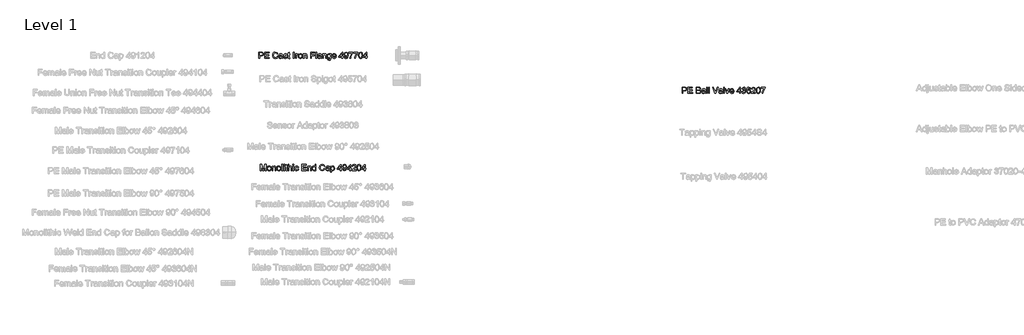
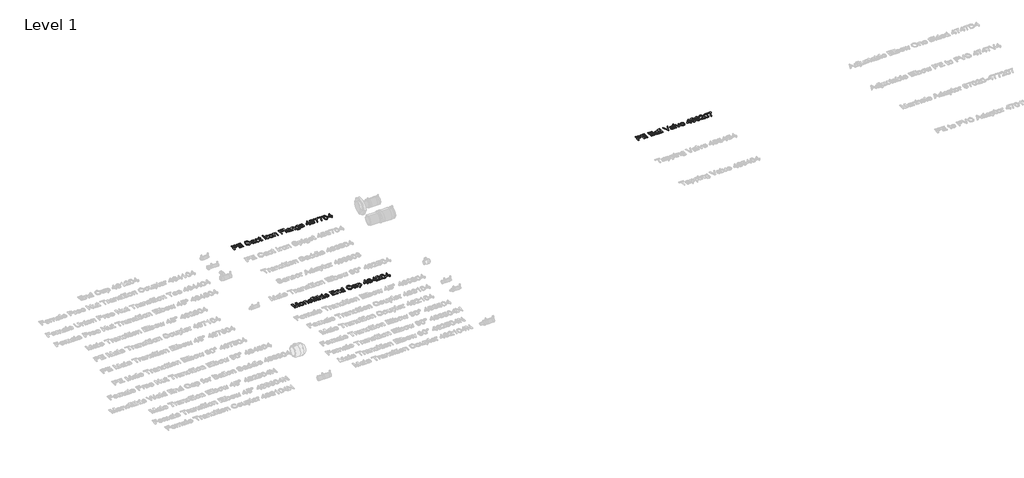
# One storey, part 36 of 41: 3 proxies.
"""IFC4 building model written with IfcOpenShell, lengths in millimetres."""

import ifcopenshell
import ifcopenshell.guid

model = None  # the IFC model being written
_history = None  # IfcOwnerHistory: only IFC2X3 demands one
_inside = {}  # id of a spatial element -> (the spatial element, [elements in it])
_under = {}  # id of a project, library or spatial element -> (it, [spatial elements below it])
_declared = {}  # id of a project -> (the project, [libraries it declares])
_typed = {}  # id of a type object -> (the type object, [elements of that type])
_made_of = {}  # id of a material, layer set ... -> (it, [elements and type objects made of it])


def new_model(schema):
    """Start an empty IFC model of exactly this schema.

    Asked for "IFC4X3", IfcOpenShell would pick the latest addendum, in which some entities
    have other attributes; the version numbers below select the first issue.
    IFC2X3 requires an IfcOwnerHistory on every rooted entity: one is made here for all.
    """
    global model, _history
    if schema == "IFC4X3":
        model = ifcopenshell.file(schema_version=(4, 3, 0, 0))
    else:
        model = ifcopenshell.file(schema=schema)
    _inside.clear()
    _under.clear()
    _declared.clear()
    _typed.clear()
    _made_of.clear()
    _history = None
    if model.schema == "IFC2X3":
        org = make("IfcOrganization", Name="unknown")
        user = make(
            "IfcPersonAndOrganization",
            ThePerson=make("IfcPerson", FamilyName="unknown"),
            TheOrganization=org,
        )
        app = make(
            "IfcApplication",
            ApplicationDeveloper=org,
            Version="unknown",
            ApplicationFullName="unknown",
            ApplicationIdentifier="unknown",
        )
        _history = make(
            "IfcOwnerHistory",
            OwningUser=user,
            OwningApplication=app,
            ChangeAction="ADDED",
            CreationDate=0,
        )
    return model


def make(cls, **values):
    """One entity of the class cls with the attributes given. An attribute that is None is left unset."""
    return model.create_entity(
        cls, **{name: value for name, value in values.items() if value is not None}
    )


def rooted(cls, **values):
    """An entity with a GlobalId (a new one), such as an element, a storey or a relation."""
    return make(cls, GlobalId=ifcopenshell.guid.new(), OwnerHistory=_history, **values)


def si_unit(unit_type, name, prefix=None):
    """IfcSIUnit, for example si_unit("LENGTHUNIT", "METRE", prefix="MILLI")."""
    return make("IfcSIUnit", UnitType=unit_type, Prefix=prefix, Name=name)


def assignment(units):
    """IfcUnitAssignment: the units of a project."""
    return None if units is None else make("IfcUnitAssignment", Units=units)


def point(xyz):
    """IfcCartesianPoint."""
    return None if xyz is None else make("IfcCartesianPoint", Coordinates=xyz)


def direction(xyz):
    """IfcDirection."""
    return None if xyz is None else make("IfcDirection", DirectionRatios=xyz)


def frame(location, z_axis=None, x_axis=None):
    """IfcAxis2Placement3D, a coordinate frame: its origin and axes. An axis left out is left unset."""
    return make(
        "IfcAxis2Placement3D",
        Location=point(location),
        Axis=direction(z_axis),
        RefDirection=direction(x_axis),
    )


def origin():
    """The frame at (0, 0, 0) with its axes left unset."""
    return frame((0.0, 0.0, 0.0))


def origin_with_axes():
    """The frame at (0, 0, 0) with the z axis (0, 0, 1) and the x axis (1, 0, 0) written out."""
    return frame((0.0, 0.0, 0.0), z_axis=(0.0, 0.0, 1.0), x_axis=(1.0, 0.0, 0.0))


def place(relative_to, where):
    """IfcLocalPlacement: puts the frame where relative to a parent placement (None: the world)."""
    return make(
        "IfcLocalPlacement", PlacementRelTo=relative_to, RelativePlacement=where
    )


def context(
    kind, dimensions, precision=None, world=None, true_north=None, identifier=None
):
    """IfcGeometricRepresentationContext, for example the 3D "Model" context."""
    return make(
        "IfcGeometricRepresentationContext",
        ContextIdentifier=identifier,
        ContextType=kind,
        CoordinateSpaceDimension=dimensions,
        Precision=precision,
        WorldCoordinateSystem=world,
        TrueNorth=true_north,
    )


def project(units=None, contexts=None):
    """IfcProject with its units and contexts."""
    return rooted(
        "IfcProject",
        Name="project",
        RepresentationContexts=contexts,
        UnitsInContext=assignment(units),
    )


def spatial(cls, under=None, at=None, **own):
    """A site, building, storey or space (cls), placed at a placement, below another one or the project."""
    s = rooted(cls, ObjectPlacement=at, **own)
    if under is not None:
        _under.setdefault(under.id(), (under, []))[1].append(s)
    return s


def polyline(points):
    """IfcPolyline through the points."""
    return make("IfcPolyline", Points=[point(p) for p in points])


def outline(outer, holes=None, kind="AREA"):
    """IfcArbitraryClosedProfileDef: a profile drawn as a closed curve; with holes, ...WithVoids."""
    if holes is None:
        return make("IfcArbitraryClosedProfileDef", ProfileType=kind, OuterCurve=outer)
    return make(
        "IfcArbitraryProfileDefWithVoids",
        ProfileType=kind,
        OuterCurve=outer,
        InnerCurves=holes,
    )


def extrude(swept, where, along, depth):
    """IfcExtrudedAreaSolid: the profile swept, set in the frame where, extruded along a direction by depth."""
    return make(
        "IfcExtrudedAreaSolid",
        SweptArea=swept,
        Position=where,
        ExtrudedDirection=direction(along),
        Depth=depth,
    )


def shape(context_of_items, identifier, shape_type, items):
    """IfcShapeRepresentation: the items that make up one representation, for example the "Body"."""
    return make(
        "IfcShapeRepresentation",
        ContextOfItems=context_of_items,
        RepresentationIdentifier=identifier,
        RepresentationType=shape_type,
        Items=items,
    )


def made_of(thing, what):
    """Note that an element or type object is made of a material, layer set ...; save() writes the relation."""
    if what is not None:
        _made_of.setdefault(what.id(), (what, []))[1].append(thing)
    return thing


def element(
    cls,
    number,
    at=None,
    inside=None,
    cuts=None,
    type_object=None,
    material=None,
    context=None,
    identifier="Body",
    shape_type=None,
    held_by="IfcProductDefinitionShape",
    body=None,
    shapes=None,
    **own,
):
    """One element of the class cls, such as IfcWall. Its Tag is "e" and its number.

    at: its placement. inside: the storey or other place that contains it. cuts: it is an
    opening in that element (IfcRelVoidsElement). A single representation is given by context,
    identifier, shape_type and body (its items); several are given by shapes. held_by: the class
    of the entity that holds the representations. save() writes the other relations.
    """
    e = rooted(cls, Tag="e%d" % number, ObjectPlacement=at, **own)
    if body is not None:
        shapes = [shape(context, identifier, shape_type, body)]
    if shapes is not None:
        e.Representation = make(held_by, Representations=shapes)
    if inside is not None:
        _inside.setdefault(inside.id(), (inside, []))[1].append(e)
    if cuts is not None:
        rooted(
            "IfcRelVoidsElement", RelatingBuildingElement=cuts, RelatedOpeningElement=e
        )
    if type_object is not None:
        _typed.setdefault(type_object.id(), (type_object, []))[1].append(e)
    return made_of(e, material)


def aggregate(whole, parts):
    """IfcRelAggregates: a whole, such as a stair, and the parts it consists of."""
    return rooted("IfcRelAggregates", RelatingObject=whole, RelatedObjects=parts)


def save(model, path):
    """Write the relations noted so far, then the file.

    IfcRelAggregates (storeys below a building ...), IfcRelContainedInSpatialStructure (elements
    in a storey), IfcRelDefinesByType, IfcRelAssociatesMaterial and IfcRelDeclares: one each for
    every whole, place, type object, material and project.
    """
    for whole, parts in _under.values():
        aggregate(whole, parts)
    for where, things in _inside.values():
        rooted(
            "IfcRelContainedInSpatialStructure",
            RelatedElements=things,
            RelatingStructure=where,
        )
    for kind, things in _typed.values():
        rooted("IfcRelDefinesByType", RelatedObjects=things, RelatingType=kind)
    for what, things in _made_of.values():
        rooted("IfcRelAssociatesMaterial", RelatedObjects=things, RelatingMaterial=what)
    for by, libraries in _declared.values():
        rooted("IfcRelDeclares", RelatingContext=by, RelatedDefinitions=libraries)
    model.write(path)


model = new_model("IFC4")

# Units and contexts
model_context = context("Model", 3, world=origin())
ifc_project = project(units=[si_unit("LENGTHUNIT", "METRE", prefix="MILLI")], contexts=[model_context])

# Site, building, storey
site = spatial("IfcSite", under=ifc_project)
building = spatial("IfcBuilding", under=site)
storey = spatial("IfcBuildingStorey", under=building, Name="Level 1", Elevation=0.0)

# Proxies
placement = place(None, origin())
element("IfcBuildingElementProxy", 1, Name="100 mm Arial", ObjectType="100 mm Arial", at=placement, inside=storey, context=model_context, shape_type="SweptSolid", body=[
    extrude(outline(polyline([(17613.6059122, 5081.8693943), (17613.6059122, 5140.9463174), (17635.500143, 5140.9463174), (17644.3270661, 5140.3838174), (17651.5025468, 5137.6217982), (17656.1539891, 5131.9102597), (17657.9136045, 5123.8549713), (17653.1612007, 5111.0905482), (17646.4959362, 5107.1746828), (17636.0049507, 5105.8693943), (17620.9905276, 5105.8693943), (17620.9905276, 5081.8693943), (17613.6059122, 5081.8693943)]), holes=[polyline([(17620.9905276, 5113.2540097), (17636.437643, 5113.2540097), (17647.312643, 5115.9655482), (17650.5289891, 5123.5953559), (17648.6323545, 5129.7107405), (17643.6491814, 5133.0568943), (17636.2645661, 5133.561702), (17620.9905276, 5133.561702), (17620.9905276, 5113.2540097)])]), origin_with_axes(), (0.0, 0.0, 1.0), 5.0),
    extrude(outline(polyline([(17668.0674507, 5081.8693943), (17668.0674507, 5140.9463174), (17710.5289891, 5140.9463174), (17710.5289891, 5133.561702), (17675.4520661, 5133.561702), (17675.4520661, 5116.0232405), (17708.6828353, 5116.0232405), (17708.6828353, 5108.6386251), (17675.4520661, 5108.6386251), (17675.4520661, 5089.2540097), (17711.4520661, 5089.2540097), (17711.4520661, 5081.8693943), (17668.0674507, 5081.8693943)])), origin_with_axes(), (0.0, 0.0, 1.0), 5.0),
    extrude(outline(polyline([(17787.1443737, 5102.8693943), (17794.5289891, 5100.9655482), (17785.7741814, 5086.0737213), (17770.312643, 5080.9463174), (17754.9448545, 5084.8261251), (17745.9304314, 5096.061702), (17742.8366814, 5111.8549713), (17746.3342776, 5127.9078559), (17756.2789891, 5138.3141059), (17770.4712968, 5141.8693943), (17785.2621622, 5137.2684328), (17793.6059122, 5124.3165097), (17786.2212968, 5122.5568943), (17780.1636045, 5131.6362213), (17770.1828353, 5134.484779), (17758.6299507, 5131.3261251), (17752.1035084, 5122.8453559), (17750.2212968, 5111.8693943), (17752.4496622, 5099.1482405), (17759.3871622, 5091.0208366), (17769.5770661, 5088.3309328), (17780.8775468, 5091.9943943), (17787.1443737, 5102.8693943)])), origin_with_axes(), (0.0, 0.0, 1.0), 5.0),
    extrude(outline(polyline([(17831.4520661, 5087.4078559), (17824.2910084, 5082.4030482), (17816.3799507, 5080.9463174), (17805.656393, 5084.4511251), (17801.9136045, 5093.4078559), (17803.3270661, 5099.249202), (17807.0410084, 5103.4895866), (17812.2116814, 5105.9126636), (17818.6011045, 5107.0232405), (17831.4087968, 5109.561702), (17831.4520661, 5111.2059328), (17829.4184122, 5116.6578559), (17821.2549507, 5118.7924713), (17813.7837968, 5117.3717982), (17810.2212968, 5112.3309328), (17802.8366814, 5113.2540097), (17806.031393, 5120.4655482), (17812.4640853, 5124.6915097), (17822.2068737, 5126.1770866), (17831.156393, 5124.8645866), (17836.2116814, 5121.5689136), (17838.4761045, 5116.5568943), (17838.8366814, 5110.0953559), (17838.8366814, 5100.9078559), (17839.2116814, 5088.078529), (17840.6828353, 5081.8693943), (17833.2982199, 5081.8693943), (17831.4520661, 5087.4078559)]), holes=[polyline([(17831.4520661, 5102.1770866), (17819.5386045, 5099.9126636), (17813.1852391, 5098.7155482), (17810.3078353, 5096.7684328), (17809.2982199, 5093.9270866), (17811.4977391, 5089.9318943), (17817.9520661, 5088.3309328), (17825.4232199, 5090.0977597), (17830.2405276, 5094.374202), (17831.4087968, 5100.0857405), (17831.4520661, 5102.1770866)])]), origin_with_axes(), (0.0, 0.0, 1.0), 5.0),
    extrude(outline(polyline([(17846.2212968, 5094.7924713), (17853.6059122, 5095.7155482), (17857.0241814, 5090.234779), (17864.8559122, 5088.3309328), (17872.3847584, 5090.0761251), (17874.8366814, 5094.172279), (17872.3703353, 5097.4895866), (17864.7693737, 5099.5953559), (17853.6491814, 5103.2083366), (17848.7958161, 5107.4270866), (17847.1443737, 5113.3838174), (17848.4712968, 5118.8862213), (17852.0914891, 5123.0905482), (17856.7862007, 5125.2756443), (17863.1395661, 5126.1770866), (17872.125143, 5124.7275674), (17877.8366814, 5120.8044905), (17880.375143, 5114.1770866), (17872.9905276, 5113.2540097), (17870.2140853, 5117.328529), (17863.7164891, 5118.7924713), (17856.6491814, 5117.3934328), (17854.5289891, 5114.1338174), (17855.4087968, 5111.984779), (17858.1636045, 5110.3549713), (17864.5241814, 5108.7828559), (17875.3631237, 5105.3068943), (17880.3967776, 5101.3693943), (17882.2212968, 5094.9511251), (17880.0794699, 5087.8838174), (17873.8991814, 5082.7564136), (17864.7549507, 5080.9463174), (17851.875143, 5084.436702), (17846.2212968, 5094.7924713)])), origin_with_axes(), (0.0, 0.0, 1.0), 5.0),
    extrude(outline(polyline([(17906.2212968, 5088.0280482), (17907.1443737, 5081.6530482), (17901.6203353, 5080.9463174), (17895.4328353, 5082.172279), (17892.3462968, 5085.3886251), (17891.4520661, 5093.7684328), (17891.4520661, 5117.8693943), (17885.9136045, 5117.8693943), (17885.9136045, 5125.2540097), (17891.4520661, 5125.2540097), (17891.4520661, 5135.797279), (17898.8366814, 5140.1386251), (17898.8366814, 5125.2540097), (17906.2212968, 5125.2540097), (17906.2212968, 5117.8693943), (17898.8366814, 5117.8693943), (17898.8366814, 5093.984779), (17899.2261045, 5090.1770866), (17900.4881237, 5088.828529), (17903.0049507, 5088.3309328), (17906.2212968, 5088.0280482)])), origin_with_axes(), (0.0, 0.0, 1.0), 5.0),
    extrude(outline(polyline([(17938.5289891, 5081.8693943), (17938.5289891, 5140.9463174), (17945.9136045, 5140.9463174), (17945.9136045, 5081.8693943), (17938.5289891, 5081.8693943)])), origin_with_axes(), (0.0, 0.0, 1.0), 5.0),
    extrude(outline(polyline([(17959.7597584, 5081.8693943), (17959.7597584, 5125.2540097), (17966.2212968, 5125.2540097), (17966.2212968, 5118.8357405), (17970.8078353, 5124.749202), (17975.4232199, 5126.1770866), (17982.8366814, 5123.8982405), (17980.3703353, 5117.2780482), (17975.1780276, 5118.7924713), (17971.0025468, 5117.3357405), (17968.3414891, 5113.297279), (17967.1443737, 5104.672279), (17967.1443737, 5081.8693943), (17959.7597584, 5081.8693943)])), origin_with_axes(), (0.0, 0.0, 1.0), 5.0),
    extrude(outline(polyline([(17985.6059122, 5103.561702), (17987.203268, 5114.0220386), (17991.9953353, 5121.374202), (18005.0049507, 5126.1770866), (18012.7627632, 5124.7149472), (18018.9592776, 5120.328529), (18023.0211766, 5113.3639857), (18024.375143, 5104.1674713), (18021.9809122, 5091.0280482), (18015.0073545, 5083.592952), (18005.0049507, 5080.9463174), (17997.1533882, 5082.4030482), (17990.9640853, 5086.7732405), (17986.9454555, 5093.8838174), (17985.6059122, 5103.561702)]), holes=[polyline([(17992.9905276, 5103.5761251), (17996.4087968, 5092.1314136), (18005.0049507, 5088.3309328), (18013.5722584, 5092.1530482), (18016.9905276, 5103.8068943), (18013.5506237, 5114.9919905), (18005.0049507, 5118.7924713), (17996.4087968, 5115.0064136), (17992.9905276, 5103.5761251)])]), origin_with_axes(), (0.0, 0.0, 1.0), 5.0),
    extrude(outline(polyline([(18032.6828353, 5081.8693943), (18032.6828353, 5125.2540097), (18040.0674507, 5125.2540097), (18040.0674507, 5119.1963174), (18045.7140853, 5124.4318943), (18053.4232199, 5126.1770866), (18060.3967776, 5124.7708366), (18065.156393, 5121.078529), (18067.3703353, 5115.6482405), (18067.7597584, 5108.5088174), (18067.7597584, 5081.8693943), (18060.375143, 5081.8693943), (18060.375143, 5107.5136251), (18059.5241814, 5114.047279), (18056.5169699, 5117.5016059), (18051.4472584, 5118.7924713), (18043.4352391, 5115.8934328), (18040.0674507, 5104.8886251), (18040.0674507, 5081.8693943), (18032.6828353, 5081.8693943)])), origin_with_axes(), (0.0, 0.0, 1.0), 5.0),
    extrude(outline(polyline([(18101.9136045, 5081.8693943), (18101.9136045, 5140.9463174), (18141.6059122, 5140.9463174), (18141.6059122, 5133.561702), (18109.2982199, 5133.561702), (18109.2982199, 5116.0232405), (18136.9905276, 5116.0232405), (18136.9905276, 5108.6386251), (18109.2982199, 5108.6386251), (18109.2982199, 5081.8693943), (18101.9136045, 5081.8693943)])), origin_with_axes(), (0.0, 0.0, 1.0), 5.0),
    extrude(outline(polyline([(18150.8366814, 5081.8693943), (18150.8366814, 5140.9463174), (18158.2212968, 5140.9463174), (18158.2212968, 5081.8693943), (18150.8366814, 5081.8693943)])), origin_with_axes(), (0.0, 0.0, 1.0), 5.0),
    extrude(outline(polyline([(18196.9905276, 5087.4078559), (18189.8294699, 5082.4030482), (18181.9184122, 5080.9463174), (18171.1948545, 5084.4511251), (18167.4520661, 5093.4078559), (18168.8655276, 5099.249202), (18172.5794699, 5103.4895866), (18177.750143, 5105.9126636), (18184.1395661, 5107.0232405), (18196.9472584, 5109.561702), (18196.9905276, 5111.2059328), (18194.9568737, 5116.6578559), (18186.7934122, 5118.7924713), (18179.3222584, 5117.3717982), (18175.7597584, 5112.3309328), (18168.375143, 5113.2540097), (18171.5698545, 5120.4655482), (18178.0025468, 5124.6915097), (18187.7453353, 5126.1770866), (18196.6948545, 5124.8645866), (18201.750143, 5121.5689136), (18204.0145661, 5116.5568943), (18204.375143, 5110.0953559), (18204.375143, 5100.9078559), (18204.750143, 5088.078529), (18206.2212968, 5081.8693943), (18198.8366814, 5081.8693943), (18196.9905276, 5087.4078559)]), holes=[polyline([(18196.9905276, 5102.1770866), (18185.0770661, 5099.9126636), (18178.7237007, 5098.7155482), (18175.8462968, 5096.7684328), (18174.8366814, 5093.9270866), (18177.0362007, 5089.9318943), (18183.4905276, 5088.3309328), (18190.9616814, 5090.0977597), (18195.7789891, 5094.374202), (18196.9472584, 5100.0857405), (18196.9905276, 5102.1770866)])]), origin_with_axes(), (0.0, 0.0, 1.0), 5.0),
    extrude(outline(polyline([(18214.5289891, 5081.8693943), (18214.5289891, 5125.2540097), (18221.9136045, 5125.2540097), (18221.9136045, 5119.1963174), (18227.5602391, 5124.4318943), (18235.2693737, 5126.1770866), (18242.2429314, 5124.7708366), (18247.0025468, 5121.078529), (18249.2164891, 5115.6482405), (18249.6059122, 5108.5088174), (18249.6059122, 5081.8693943), (18242.2212968, 5081.8693943), (18242.2212968, 5107.5136251), (18241.3703353, 5114.047279), (18238.3631237, 5117.5016059), (18233.2934122, 5118.7924713), (18225.281393, 5115.8934328), (18221.9136045, 5104.8886251), (18221.9136045, 5081.8693943), (18214.5289891, 5081.8693943)])), origin_with_axes(), (0.0, 0.0, 1.0), 5.0),
    extrude(outline(polyline([(18257.9136045, 5078.1770866), (18265.2982199, 5077.2540097), (18267.6924507, 5073.359779), (18274.8607199, 5071.7155482), (18282.4184122, 5073.5761251), (18286.0241814, 5078.797279), (18286.5289891, 5087.4078559), (18274.9905276, 5081.8693943), (18267.3769459, 5083.4811732), (18261.6996622, 5088.3165097), (18256.9905276, 5103.7780482), (18259.1035084, 5115.2227597), (18265.218893, 5123.3213174), (18274.6299507, 5126.1770866), (18281.2176911, 5124.561702), (18286.5289891, 5119.7155482), (18286.5289891, 5125.2540097), (18293.9136045, 5125.2540097), (18293.9136045, 5087.797279), (18291.8943737, 5073.453529), (18285.4977391, 5066.7828559), (18274.7164891, 5064.3309328), (18262.4352391, 5067.7852597), (18257.9136045, 5078.1770866)]), holes=[polyline([(18264.375143, 5104.2828559), (18267.5265853, 5092.8525674), (18275.437643, 5089.2540097), (18283.3342776, 5092.8309328), (18286.5289891, 5104.0665097), (18283.2405276, 5115.078529), (18275.3222584, 5118.7924713), (18267.5698545, 5115.1362213), (18264.375143, 5104.2828559)])]), origin_with_axes(), (0.0, 0.0, 1.0), 5.0),
    extrude(outline(polyline([(18335.3655276, 5094.7924713), (18342.6059122, 5093.8693943), (18335.8342776, 5084.3357405), (18323.2212968, 5080.9463174), (18314.5566334, 5082.4084568), (18307.8895661, 5086.7948751), (18303.6383641, 5093.8207165), (18302.2212968, 5103.2011251), (18303.6527872, 5112.8970386), (18307.9472584, 5120.1482405), (18314.5241814, 5124.6698751), (18322.8030276, 5126.1770866), (18330.8240612, 5124.6734809), (18337.2333161, 5120.1626636), (18341.4358401, 5112.9258847), (18342.8366814, 5103.2443943), (18342.7934122, 5101.2540097), (18309.6059122, 5101.2540097), (18313.8535084, 5091.6626636), (18323.3655276, 5088.3309328), (18330.6059122, 5089.874202), (18335.3655276, 5094.7924713)]), holes=[polyline([(18309.6059122, 5108.6386251), (18335.4520661, 5108.6386251), (18332.4953353, 5115.3309328), (18322.7741814, 5118.7924713), (18313.6804314, 5116.030452), (18309.6059122, 5108.6386251)])]), origin_with_axes(), (0.0, 0.0, 1.0), 5.0),
    extrude(outline(polyline([(18395.4520661, 5081.8693943), (18395.4520661, 5095.7155482), (18368.6828353, 5095.7155482), (18368.6828353, 5103.1001636), (18397.2982199, 5140.0232405), (18402.8366814, 5140.0232405), (18402.8366814, 5103.1001636), (18410.2212968, 5103.1001636), (18410.2212968, 5095.7155482), (18402.8366814, 5095.7155482), (18402.8366814, 5081.8693943), (18395.4520661, 5081.8693943)]), holes=[polyline([(18395.4520661, 5103.1001636), (18395.4520661, 5125.9174713), (18377.7693737, 5103.1001636), (18395.4520661, 5103.1001636)])]), origin_with_axes(), (0.0, 0.0, 1.0), 5.0),
    extrude(outline(polyline([(18417.6059122, 5096.6386251), (18424.9905276, 5097.561702), (18428.3078353, 5090.516029), (18434.5962968, 5088.3309328), (18440.5746622, 5089.7371828), (18444.6275468, 5093.4943943), (18447.0434122, 5099.9126636), (18448.1107199, 5108.4799713), (18442.1612007, 5104.3261251), (18434.062643, 5102.1770866), (18421.7237007, 5107.4270866), (18416.6828353, 5121.2588174), (18421.968893, 5135.5376636), (18435.2164891, 5140.9463174), (18445.7381237, 5137.859779), (18452.9785084, 5129.061702), (18455.4520661, 5112.5328559), (18452.9857199, 5094.5977597), (18445.6515853, 5084.436702), (18434.250143, 5080.9463174), (18422.8991814, 5085.0641059), (18417.6059122, 5096.6386251)]), holes=[polyline([(18448.0674507, 5121.4318943), (18444.8799507, 5130.2876636), (18436.4136045, 5133.561702), (18427.5289891, 5130.0352597), (18424.0674507, 5120.8982405), (18427.3414891, 5112.7131443), (18436.2116814, 5109.561702), (18444.7285084, 5112.7131443), (18448.0674507, 5121.4318943)])]), origin_with_axes(), (0.0, 0.0, 1.0), 5.0),
    extrude(outline(polyline([(18461.9136045, 5132.6386251), (18461.9136045, 5140.0232405), (18500.6828353, 5140.0232405), (18500.6828353, 5134.0520866), (18489.6852391, 5118.1650674), (18481.2693737, 5097.922279), (18478.5289891, 5081.8693943), (18471.1443737, 5081.8693943), (18474.0794699, 5098.5280482), (18482.1347584, 5117.3573751), (18493.2982199, 5132.6386251), (18461.9136045, 5132.6386251)])), origin_with_axes(), (0.0, 0.0, 1.0), 5.0),
    extrude(outline(polyline([(18507.1443737, 5132.6386251), (18507.1443737, 5140.0232405), (18545.9136045, 5140.0232405), (18545.9136045, 5134.0520866), (18534.9160084, 5118.1650674), (18526.500143, 5097.922279), (18523.7597584, 5081.8693943), (18516.375143, 5081.8693943), (18519.3102391, 5098.5280482), (18527.3655276, 5117.3573751), (18538.5289891, 5132.6386251), (18507.1443737, 5132.6386251)])), origin_with_axes(), (0.0, 0.0, 1.0), 5.0),
    extrude(outline(polyline([(18552.375143, 5110.9318943), (18554.5458161, 5127.9294905), (18560.9929314, 5137.7299713), (18571.7597584, 5140.9463174), (18580.3847584, 5139.0424713), (18586.3414891, 5133.5544905), (18589.8030276, 5124.8141059), (18591.1443737, 5110.9318943), (18588.9953353, 5094.0064136), (18582.5698545, 5084.1842982), (18571.7597584, 5080.9463174), (18564.0866814, 5082.3525674), (18558.2597584, 5086.5713174), (18553.8462968, 5096.562904), (18552.375143, 5110.9318943)]), holes=[polyline([(18559.7597584, 5110.9463174), (18563.2212968, 5092.6073751), (18571.7597584, 5088.3309328), (18580.2982199, 5092.6217982), (18583.7597584, 5110.9463174), (18580.4136045, 5129.0761251), (18571.6732199, 5133.561702), (18563.3366814, 5129.609779), (18559.7597584, 5110.9463174)])]), origin_with_axes(), (0.0, 0.0, 1.0), 5.0),
    extrude(outline(polyline([(18621.6059122, 5081.8693943), (18621.6059122, 5095.7155482), (18594.8366814, 5095.7155482), (18594.8366814, 5103.1001636), (18623.4520661, 5140.0232405), (18628.9905276, 5140.0232405), (18628.9905276, 5103.1001636), (18636.375143, 5103.1001636), (18636.375143, 5095.7155482), (18628.9905276, 5095.7155482), (18628.9905276, 5081.8693943), (18621.6059122, 5081.8693943)]), holes=[polyline([(18621.6059122, 5103.1001636), (18621.6059122, 5125.9174713), (18603.9232199, 5103.1001636), (18621.6059122, 5103.1001636)])]), origin_with_axes(), (0.0, 0.0, 1.0), 5.0),
])
element("IfcBuildingElementProxy", 2, Name="100 mm Arial", ObjectType="100 mm Arial", at=placement, inside=storey, context=model_context, shape_type="SweptSolid", body=[
    extrude(outline(polyline([(17627.9136045, 4024.7258229), (17627.9136045, 4083.802746), (17640.6203353, 4083.802746), (17652.7068737, 4042.1633229), (17655.1443737, 4033.4662075), (17657.7837968, 4042.8844767), (17669.6684122, 4083.802746), (17682.375143, 4083.802746), (17682.375143, 4024.7258229), (17674.9905276, 4024.7258229), (17674.9905276, 4076.4181306), (17660.1491814, 4024.7258229), (17650.1395661, 4024.7258229), (17635.2982199, 4076.4181306), (17635.2982199, 4024.7258229), (17627.9136045, 4024.7258229)])), origin_with_axes(), (0.0, 0.0, 1.0), 5.0),
    extrude(outline(polyline([(17692.5289891, 4046.4181306), (17694.1263449, 4056.8784671), (17698.9184122, 4064.2306306), (17711.9280276, 4069.0335152), (17719.6858401, 4067.5713758), (17725.8823545, 4063.1849575), (17729.9442536, 4056.2204142), (17731.2982199, 4047.0238998), (17728.9039891, 4033.8844767), (17721.9304314, 4026.4493806), (17711.9280276, 4023.802746), (17704.0764651, 4025.2594767), (17697.8871622, 4029.629669), (17693.8685324, 4036.740246), (17692.5289891, 4046.4181306)]), holes=[polyline([(17699.9136045, 4046.4325536), (17703.3318737, 4034.9878421), (17711.9280276, 4031.1873613), (17720.4953353, 4035.0094767), (17723.9136045, 4046.6633229), (17720.4737007, 4057.848419), (17711.9280276, 4061.6488998), (17703.3318737, 4057.8628421), (17699.9136045, 4046.4325536)])]), origin_with_axes(), (0.0, 0.0, 1.0), 5.0),
    extrude(outline(polyline([(17739.6059122, 4024.7258229), (17739.6059122, 4068.1104383), (17746.9905276, 4068.1104383), (17746.9905276, 4062.052746), (17752.6371622, 4067.2883229), (17760.3462968, 4069.0335152), (17767.3198545, 4067.6272652), (17772.0794699, 4063.9349575), (17774.2934122, 4058.504669), (17774.6828353, 4051.365246), (17774.6828353, 4024.7258229), (17767.2982199, 4024.7258229), (17767.2982199, 4050.3700536), (17766.4472584, 4056.9037075), (17763.4400468, 4060.3580344), (17758.3703353, 4061.6488998), (17750.3583161, 4058.7498613), (17746.9905276, 4047.7450536), (17746.9905276, 4024.7258229), (17739.6059122, 4024.7258229)])), origin_with_axes(), (0.0, 0.0, 1.0), 5.0),
    extrude(outline(polyline([(17782.9905276, 4046.4181306), (17784.5878834, 4056.8784671), (17789.3799507, 4064.2306306), (17802.3895661, 4069.0335152), (17810.1473786, 4067.5713758), (17816.343893, 4063.1849575), (17820.405792, 4056.2204142), (17821.7597584, 4047.0238998), (17819.3655276, 4033.8844767), (17812.3919699, 4026.4493806), (17802.3895661, 4023.802746), (17794.5380036, 4025.2594767), (17788.3487007, 4029.629669), (17784.3300709, 4036.740246), (17782.9905276, 4046.4181306)]), holes=[polyline([(17790.375143, 4046.4325536), (17793.7934122, 4034.9878421), (17802.3895661, 4031.1873613), (17810.9568737, 4035.0094767), (17814.375143, 4046.6633229), (17810.9352391, 4057.848419), (17802.3895661, 4061.6488998), (17793.7934122, 4057.8628421), (17790.375143, 4046.4325536)])]), origin_with_axes(), (0.0, 0.0, 1.0), 5.0),
    extrude(outline(polyline([(17830.0674507, 4024.7258229), (17830.0674507, 4083.802746), (17837.4520661, 4083.802746), (17837.4520661, 4024.7258229), (17830.0674507, 4024.7258229)])), origin_with_axes(), (0.0, 0.0, 1.0), 5.0),
    extrude(outline(polyline([(17848.5289891, 4076.4181306), (17848.5289891, 4083.802746), (17855.9136045, 4083.802746), (17855.9136045, 4076.4181306), (17848.5289891, 4076.4181306)])), origin_with_axes(), (0.0, 0.0, 1.0), 5.0),
    extrude(outline(polyline([(17848.5289891, 4024.7258229), (17848.5289891, 4068.1104383), (17855.9136045, 4068.1104383), (17855.9136045, 4024.7258229), (17848.5289891, 4024.7258229)])), origin_with_axes(), (0.0, 0.0, 1.0), 5.0),
    extrude(outline(polyline([(17882.6828353, 4030.8844767), (17883.6059122, 4024.5094767), (17878.0818737, 4023.802746), (17871.8943737, 4025.0287075), (17868.8078353, 4028.2450536), (17867.9136045, 4036.6248613), (17867.9136045, 4060.7258229), (17862.375143, 4060.7258229), (17862.375143, 4068.1104383), (17867.9136045, 4068.1104383), (17867.9136045, 4078.6537075), (17875.2982199, 4082.9950536), (17875.2982199, 4068.1104383), (17882.6828353, 4068.1104383), (17882.6828353, 4060.7258229), (17875.2982199, 4060.7258229), (17875.2982199, 4036.8412075), (17875.687643, 4033.0335152), (17876.9496622, 4031.6849575), (17879.4664891, 4031.1873613), (17882.6828353, 4030.8844767)])), origin_with_axes(), (0.0, 0.0, 1.0), 5.0),
    extrude(outline(polyline([(17890.0674507, 4024.7258229), (17890.0674507, 4083.802746), (17897.4520661, 4083.802746), (17897.4520661, 4062.0815921), (17903.2104795, 4067.2955344), (17910.3030276, 4069.0335152), (17918.5962968, 4067.1368806), (17923.6299507, 4061.8940921), (17925.1443737, 4052.1873613), (17925.1443737, 4024.7258229), (17917.7597584, 4024.7258229), (17917.7597584, 4051.4229383), (17915.4087968, 4059.2113998), (17908.7453353, 4061.6488998), (17902.6948545, 4060.004669), (17898.656393, 4055.5479383), (17897.4520661, 4047.7738998), (17897.4520661, 4024.7258229), (17890.0674507, 4024.7258229)])), origin_with_axes(), (0.0, 0.0, 1.0), 5.0),
    extrude(outline(polyline([(17935.2982199, 4076.4181306), (17935.2982199, 4083.802746), (17942.6828353, 4083.802746), (17942.6828353, 4076.4181306), (17935.2982199, 4076.4181306)])), origin_with_axes(), (0.0, 0.0, 1.0), 5.0),
    extrude(outline(polyline([(17935.2982199, 4024.7258229), (17935.2982199, 4068.1104383), (17942.6828353, 4068.1104383), (17942.6828353, 4024.7258229), (17935.2982199, 4024.7258229)])), origin_with_axes(), (0.0, 0.0, 1.0), 5.0),
    extrude(outline(polyline([(17981.4520661, 4040.4181306), (17988.8366814, 4039.4950536), (17982.9087968, 4027.9638036), (17971.1972584, 4023.802746), (17963.3420901, 4025.2540681), (17957.1996622, 4029.6080344), (17953.2351189, 4036.6735392), (17951.9136045, 4046.2594767), (17954.1708161, 4058.5263036), (17961.0506237, 4066.4085152), (17971.0962968, 4069.0335152), (17982.3246622, 4065.427746), (17987.9136045, 4055.1873613), (17980.5289891, 4054.2642844), (17977.1035084, 4059.7955344), (17971.1539891, 4061.6488998), (17962.593893, 4057.9998613), (17959.2982199, 4046.4613998), (17962.5217776, 4034.8147652), (17970.9520661, 4031.1873613), (17977.9112007, 4033.4517844), (17981.4520661, 4040.4181306)])), origin_with_axes(), (0.0, 0.0, 1.0), 5.0),
    extrude(outline(polyline([(18019.2982199, 4024.7258229), (18019.2982199, 4083.802746), (18061.7597584, 4083.802746), (18061.7597584, 4076.4181306), (18026.6828353, 4076.4181306), (18026.6828353, 4058.879669), (18059.9136045, 4058.879669), (18059.9136045, 4051.4950536), (18026.6828353, 4051.4950536), (18026.6828353, 4032.1104383), (18062.6828353, 4032.1104383), (18062.6828353, 4024.7258229), (18019.2982199, 4024.7258229)])), origin_with_axes(), (0.0, 0.0, 1.0), 5.0),
    extrude(outline(polyline([(18072.8366814, 4024.7258229), (18072.8366814, 4068.1104383), (18080.2212968, 4068.1104383), (18080.2212968, 4062.052746), (18085.8679314, 4067.2883229), (18093.5770661, 4069.0335152), (18100.5506237, 4067.6272652), (18105.3102391, 4063.9349575), (18107.5241814, 4058.504669), (18107.9136045, 4051.365246), (18107.9136045, 4024.7258229), (18100.5289891, 4024.7258229), (18100.5289891, 4050.3700536), (18099.6780276, 4056.9037075), (18096.6708161, 4060.3580344), (18091.6011045, 4061.6488998), (18083.5890853, 4058.7498613), (18080.2212968, 4047.7450536), (18080.2212968, 4024.7258229), (18072.8366814, 4024.7258229)])), origin_with_axes(), (0.0, 0.0, 1.0), 5.0),
    extrude(outline(polyline([(18144.8366814, 4024.7258229), (18144.8366814, 4031.692169), (18139.9508641, 4025.7751017), (18133.1972584, 4023.802746), (18124.0530276, 4026.6585152), (18117.5914891, 4034.6272652), (18115.2982199, 4046.3748613), (18117.4112007, 4058.129669), (18123.7429314, 4066.2210152), (18133.1684122, 4069.0335152), (18139.9761045, 4067.021496), (18144.8366814, 4061.7931306), (18144.8366814, 4083.802746), (18152.2212968, 4083.802746), (18152.2212968, 4024.7258229), (18144.8366814, 4024.7258229)]), holes=[polyline([(18122.6828353, 4046.4037075), (18126.0145661, 4034.973419), (18133.875143, 4031.1873613), (18141.6419699, 4034.8003421), (18144.8366814, 4045.8412075), (18141.5842776, 4057.8267844), (18133.5722584, 4061.6488998), (18125.7982199, 4057.9782267), (18122.6828353, 4046.4037075)])]), origin_with_axes(), (0.0, 0.0, 1.0), 5.0),
    extrude(outline(polyline([(18228.8366814, 4045.7258229), (18236.2212968, 4043.8219767), (18227.4664891, 4028.9301498), (18212.0049507, 4023.802746), (18196.6371622, 4027.6825536), (18187.6227391, 4038.9181306), (18184.5289891, 4054.7113998), (18188.0265853, 4070.7642844), (18197.9712968, 4081.1705344), (18212.1636045, 4084.7258229), (18226.9544699, 4080.1248613), (18235.2982199, 4067.1729383), (18227.9136045, 4065.4133229), (18221.8559122, 4074.4926498), (18211.875143, 4077.3412075), (18200.3222584, 4074.1825536), (18193.7958161, 4065.7017844), (18191.9136045, 4054.7258229), (18194.1419699, 4042.004669), (18201.0794699, 4033.8772652), (18211.2693737, 4031.1873613), (18222.5698545, 4034.8508229), (18228.8366814, 4045.7258229)])), origin_with_axes(), (0.0, 0.0, 1.0), 5.0),
    extrude(outline(polyline([(18273.1443737, 4030.2642844), (18265.9833161, 4025.2594767), (18258.0722584, 4023.802746), (18247.3487007, 4027.3075536), (18243.6059122, 4036.2642844), (18245.0193737, 4042.1056306), (18248.7333161, 4046.3460152), (18253.9039891, 4048.7690921), (18260.2934122, 4049.879669), (18273.1011045, 4052.4181306), (18273.1443737, 4054.0623613), (18271.1107199, 4059.5142844), (18262.9472584, 4061.6488998), (18255.4761045, 4060.2282267), (18251.9136045, 4055.1873613), (18244.5289891, 4056.1104383), (18247.7237007, 4063.3219767), (18254.156393, 4067.5479383), (18263.8991814, 4069.0335152), (18272.8487007, 4067.7210152), (18277.9039891, 4064.4253421), (18280.1684122, 4059.4133229), (18280.5289891, 4052.9517844), (18280.5289891, 4043.7642844), (18280.9039891, 4030.9349575), (18282.375143, 4024.7258229), (18274.9905276, 4024.7258229), (18273.1443737, 4030.2642844)]), holes=[polyline([(18273.1443737, 4045.0335152), (18261.2309122, 4042.7690921), (18254.8775468, 4041.5719767), (18252.000143, 4039.6248613), (18250.9905276, 4036.7835152), (18253.1900468, 4032.7883229), (18259.6443737, 4031.1873613), (18267.1155276, 4032.9541883), (18271.9328353, 4037.2306306), (18273.1011045, 4042.942169), (18273.1443737, 4045.0335152)])]), origin_with_axes(), (0.0, 0.0, 1.0), 5.0),
    extrude(outline(polyline([(18290.6828353, 4008.1104383), (18290.6828353, 4068.1104383), (18298.0674507, 4068.1104383), (18298.0674507, 4060.8700536), (18303.1732199, 4066.9926498), (18310.0674507, 4069.0335152), (18319.4280276, 4066.177746), (18325.5434122, 4058.129669), (18327.6059122, 4046.7498613), (18325.2765853, 4034.785919), (18318.5121622, 4026.6368806), (18309.1732199, 4023.802746), (18302.7477391, 4025.6993806), (18298.0674507, 4030.4950536), (18298.0674507, 4008.1104383), (18290.6828353, 4008.1104383)]), holes=[polyline([(18298.0674507, 4046.0719767), (18301.2621622, 4034.8219767), (18309.0145661, 4031.1873613), (18316.9256237, 4034.9517844), (18320.2212968, 4046.6200536), (18317.0049507, 4057.8988998), (18309.3174507, 4061.6488998), (18301.4785084, 4057.660919), (18298.0674507, 4046.0719767)])]), origin_with_axes(), (0.0, 0.0, 1.0), 5.0),
    extrude(outline(polyline([(18381.1443737, 4024.7258229), (18381.1443737, 4038.5719767), (18354.375143, 4038.5719767), (18354.375143, 4045.9565921), (18382.9905276, 4082.879669), (18388.5289891, 4082.879669), (18388.5289891, 4045.9565921), (18395.9136045, 4045.9565921), (18395.9136045, 4038.5719767), (18388.5289891, 4038.5719767), (18388.5289891, 4024.7258229), (18381.1443737, 4024.7258229)]), holes=[polyline([(18381.1443737, 4045.9565921), (18381.1443737, 4068.7738998), (18363.4616814, 4045.9565921), (18381.1443737, 4045.9565921)])]), origin_with_axes(), (0.0, 0.0, 1.0), 5.0),
    extrude(outline(polyline([(18403.2982199, 4039.4950536), (18410.6828353, 4040.4181306), (18414.000143, 4033.3724575), (18420.2886045, 4031.1873613), (18426.2669699, 4032.5936113), (18430.3198545, 4036.3508229), (18432.7357199, 4042.7690921), (18433.8030276, 4051.3363998), (18427.8535084, 4047.1825536), (18419.7549507, 4045.0335152), (18407.4160084, 4050.2835152), (18402.375143, 4064.115246), (18407.6612007, 4078.3940921), (18420.9087968, 4083.802746), (18431.4304314, 4080.7162075), (18438.6708161, 4071.9181306), (18441.1443737, 4055.3892844), (18438.6780276, 4037.4541883), (18431.343893, 4027.2931306), (18419.9424507, 4023.802746), (18408.5914891, 4027.9205344), (18403.2982199, 4039.4950536)]), holes=[polyline([(18433.7597584, 4064.2883229), (18430.5722584, 4073.1440921), (18422.1059122, 4076.4181306), (18413.2212968, 4072.8916883), (18409.7597584, 4063.754669), (18413.0337968, 4055.5695729), (18421.9039891, 4052.4181306), (18430.4208161, 4055.5695729), (18433.7597584, 4064.2883229)])]), origin_with_axes(), (0.0, 0.0, 1.0), 5.0),
    extrude(outline(polyline([(18471.6059122, 4024.7258229), (18471.6059122, 4038.5719767), (18444.8366814, 4038.5719767), (18444.8366814, 4045.9565921), (18473.4520661, 4082.879669), (18478.9905276, 4082.879669), (18478.9905276, 4045.9565921), (18486.375143, 4045.9565921), (18486.375143, 4038.5719767), (18478.9905276, 4038.5719767), (18478.9905276, 4024.7258229), (18471.6059122, 4024.7258229)]), holes=[polyline([(18471.6059122, 4045.9565921), (18471.6059122, 4068.7738998), (18453.9232199, 4045.9565921), (18471.6059122, 4045.9565921)])]), origin_with_axes(), (0.0, 0.0, 1.0), 5.0),
    extrude(outline(polyline([(18530.6828353, 4032.1104383), (18530.6828353, 4024.7258229), (18491.9136045, 4024.7258229), (18492.7068737, 4029.817169), (18497.1924507, 4037.6561113), (18506.437643, 4046.2162075), (18519.187643, 4058.5190921), (18522.375143, 4066.8844767), (18519.3679314, 4073.6561113), (18511.5145661, 4076.4181306), (18503.3294699, 4073.7210152), (18500.2212968, 4066.2642844), (18492.8366814, 4067.1873613), (18498.4977391, 4079.5479383), (18511.6732199, 4083.802746), (18524.8919699, 4079.0719767), (18529.7597584, 4067.3315921), (18528.4472584, 4060.3291883), (18524.0842776, 4053.0888036), (18513.5049507, 4042.9710152), (18505.0097584, 4035.8676498), (18501.6780276, 4032.1104383), (18530.6828353, 4032.1104383)])), origin_with_axes(), (0.0, 0.0, 1.0), 5.0),
    extrude(outline(polyline([(18538.0674507, 4053.7883229), (18540.2381237, 4070.785919), (18546.6852391, 4080.5863998), (18557.4520661, 4083.802746), (18566.0770661, 4081.8988998), (18572.0337968, 4076.410919), (18575.4953353, 4067.6705344), (18576.8366814, 4053.7883229), (18574.687643, 4036.8628421), (18568.2621622, 4027.0407267), (18557.4520661, 4023.802746), (18549.7789891, 4025.208996), (18543.9520661, 4029.427746), (18539.5386045, 4039.4193325), (18538.0674507, 4053.7883229)]), holes=[polyline([(18545.4520661, 4053.802746), (18548.9136045, 4035.4638036), (18557.4520661, 4031.1873613), (18565.9905276, 4035.4782267), (18569.4520661, 4053.802746), (18566.1059122, 4071.9325536), (18557.3655276, 4076.4181306), (18549.0289891, 4072.4662075), (18545.4520661, 4053.802746)])]), origin_with_axes(), (0.0, 0.0, 1.0), 5.0),
    extrude(outline(polyline([(18607.2982199, 4024.7258229), (18607.2982199, 4038.5719767), (18580.5289891, 4038.5719767), (18580.5289891, 4045.9565921), (18609.1443737, 4082.879669), (18614.6828353, 4082.879669), (18614.6828353, 4045.9565921), (18622.0674507, 4045.9565921), (18622.0674507, 4038.5719767), (18614.6828353, 4038.5719767), (18614.6828353, 4024.7258229), (18607.2982199, 4024.7258229)]), holes=[polyline([(18607.2982199, 4045.9565921), (18607.2982199, 4068.7738998), (18589.6155276, 4045.9565921), (18607.2982199, 4045.9565921)])]), origin_with_axes(), (0.0, 0.0, 1.0), 5.0),
])
element("IfcBuildingElementProxy", 3, Name="100 mm Arial", ObjectType="100 mm Arial", at=placement, inside=storey, context=model_context, shape_type="SweptSolid", body=[
    extrude(outline(polyline([(21602.2355094, 4752.3077873), (21602.2355094, 4811.3847104), (21624.1297402, 4811.3847104), (21632.9566632, 4810.8222104), (21640.132144, 4808.0601911), (21644.7835863, 4802.3486527), (21646.5432017, 4794.2933642), (21641.7907979, 4781.5289411), (21635.1255334, 4777.6130757), (21624.6345479, 4776.3077873), (21609.6201248, 4776.3077873), (21609.6201248, 4752.3077873), (21602.2355094, 4752.3077873)]), holes=[polyline([(21609.6201248, 4783.6924027), (21625.0672402, 4783.6924027), (21635.9422402, 4786.4039411), (21639.1585863, 4794.0337488), (21637.2619517, 4800.1491334), (21632.2787786, 4803.4952873), (21624.8941632, 4804.000095), (21609.6201248, 4804.000095), (21609.6201248, 4783.6924027)])]), origin_with_axes(), (0.0, 0.0, 1.0), 5.0),
    extrude(outline(polyline([(21656.6970479, 4752.3077873), (21656.6970479, 4811.3847104), (21699.1585863, 4811.3847104), (21699.1585863, 4804.000095), (21664.0816632, 4804.000095), (21664.0816632, 4786.4616334), (21697.3124325, 4786.4616334), (21697.3124325, 4779.0770181), (21664.0816632, 4779.0770181), (21664.0816632, 4759.6924027), (21700.0816632, 4759.6924027), (21700.0816632, 4752.3077873), (21656.6970479, 4752.3077873)])), origin_with_axes(), (0.0, 0.0, 1.0), 5.0),
    extrude(outline(polyline([(21734.2355094, 4752.3077873), (21734.2355094, 4811.3847104), (21756.7787786, 4811.3847104), (21767.819644, 4809.6467296), (21774.3388748, 4804.3029796), (21776.6970479, 4796.7452873), (21774.7138748, 4789.843845), (21768.7210863, 4784.6154796), (21775.9975286, 4779.1058642), (21778.5432017, 4769.9183642), (21776.8052209, 4761.9784604), (21772.4999325, 4756.3246142), (21766.0744517, 4753.3246142), (21756.6057017, 4752.3077873), (21734.2355094, 4752.3077873)]), holes=[polyline([(21741.6201248, 4759.6924027), (21756.7643556, 4759.6924027), (21762.2451248, 4759.9808642), (21766.882144, 4761.5890373), (21769.9542594, 4764.8702873), (21771.1585863, 4769.8462488), (21769.7451248, 4775.5866334), (21765.1657979, 4779.0121142), (21756.0432017, 4780.000095), (21741.6201248, 4780.000095), (21741.6201248, 4759.6924027)]), polyline([(21741.6201248, 4787.3847104), (21755.1057017, 4787.3847104), (21762.9807017, 4788.0193257), (21767.7186825, 4790.7524988), (21769.3124325, 4795.562595), (21767.8268556, 4800.3799027), (21763.5720479, 4803.2284604), (21754.0816632, 4804.000095), (21741.6201248, 4804.000095), (21741.6201248, 4787.3847104)])]), origin_with_axes(), (0.0, 0.0, 1.0), 5.0),
    extrude(outline(polyline([(21815.4662786, 4757.8462488), (21808.3052209, 4752.8414411), (21800.3941632, 4751.3847104), (21789.6706056, 4754.8895181), (21785.9278171, 4763.8462488), (21787.3412786, 4769.687595), (21791.0552209, 4773.9279796), (21796.225894, 4776.3510565), (21802.6153171, 4777.4616334), (21815.4230094, 4780.000095), (21815.4662786, 4781.6443257), (21813.4326248, 4787.0962488), (21805.2691632, 4789.2308642), (21797.7980094, 4787.8101911), (21794.2355094, 4782.7693257), (21786.850894, 4783.6924027), (21790.0456056, 4790.9039411), (21796.4782979, 4795.1299027), (21806.2210863, 4796.6154796), (21815.1706056, 4795.3029796), (21820.225894, 4792.0073065), (21822.4903171, 4786.9952873), (21822.850894, 4780.5337488), (21822.850894, 4771.3462488), (21823.225894, 4758.5169219), (21824.6970479, 4752.3077873), (21817.3124325, 4752.3077873), (21815.4662786, 4757.8462488)]), holes=[polyline([(21815.4662786, 4772.6154796), (21803.5528171, 4770.3510565), (21797.1994517, 4769.1539411), (21794.3220479, 4767.2068257), (21793.3124325, 4764.3654796), (21795.5119517, 4760.3702873), (21801.9662786, 4758.7693257), (21809.4374325, 4760.5361527), (21814.2547402, 4764.812595), (21815.4230094, 4770.5241334), (21815.4662786, 4772.6154796)])]), origin_with_axes(), (0.0, 0.0, 1.0), 5.0),
    extrude(outline(polyline([(21833.0047402, 4752.3077873), (21833.0047402, 4811.3847104), (21840.3893556, 4811.3847104), (21840.3893556, 4752.3077873), (21833.0047402, 4752.3077873)])), origin_with_axes(), (0.0, 0.0, 1.0), 5.0),
    extrude(outline(polyline([(21851.4662786, 4752.3077873), (21851.4662786, 4811.3847104), (21858.850894, 4811.3847104), (21858.850894, 4752.3077873), (21851.4662786, 4752.3077873)])), origin_with_axes(), (0.0, 0.0, 1.0), 5.0),
    extrude(outline(polyline([(21911.3797402, 4752.3077873), (21887.8701248, 4811.3847104), (21895.7739709, 4811.3847104), (21911.5095479, 4768.8222104), (21914.6970479, 4759.2308642), (21917.8412786, 4768.8222104), (21933.6201248, 4811.3847104), (21941.5239709, 4811.3847104), (21919.0095479, 4752.3077873), (21911.3797402, 4752.3077873)])), origin_with_axes(), (0.0, 0.0, 1.0), 5.0),
    extrude(outline(polyline([(21975.1585863, 4757.8462488), (21967.9975286, 4752.8414411), (21960.0864709, 4751.3847104), (21949.3629132, 4754.8895181), (21945.6201248, 4763.8462488), (21947.0335863, 4769.687595), (21950.7475286, 4773.9279796), (21955.9182017, 4776.3510565), (21962.3076248, 4777.4616334), (21975.1153171, 4780.000095), (21975.1585863, 4781.6443257), (21973.1249325, 4787.0962488), (21964.9614709, 4789.2308642), (21957.4903171, 4787.8101911), (21953.9278171, 4782.7693257), (21946.5432017, 4783.6924027), (21949.7379132, 4790.9039411), (21956.1706056, 4795.1299027), (21965.913394, 4796.6154796), (21974.8629132, 4795.3029796), (21979.9182017, 4792.0073065), (21982.1826248, 4786.9952873), (21982.5432017, 4780.5337488), (21982.5432017, 4771.3462488), (21982.9182017, 4758.5169219), (21984.3893556, 4752.3077873), (21977.0047402, 4752.3077873), (21975.1585863, 4757.8462488)]), holes=[polyline([(21975.1585863, 4772.6154796), (21963.2451248, 4770.3510565), (21956.8917594, 4769.1539411), (21954.0143556, 4767.2068257), (21953.0047402, 4764.3654796), (21955.2042594, 4760.3702873), (21961.6585863, 4758.7693257), (21969.1297402, 4760.5361527), (21973.9470479, 4764.812595), (21975.1153171, 4770.5241334), (21975.1585863, 4772.6154796)])]), origin_with_axes(), (0.0, 0.0, 1.0), 5.0),
    extrude(outline(polyline([(21992.6970479, 4752.3077873), (21992.6970479, 4811.3847104), (22000.0816632, 4811.3847104), (22000.0816632, 4752.3077873), (21992.6970479, 4752.3077873)])), origin_with_axes(), (0.0, 0.0, 1.0), 5.0),
    extrude(outline(polyline([(22021.8028171, 4752.3077873), (22006.5432017, 4795.6924027), (22014.3605094, 4795.6924027), (22023.6057017, 4769.7020181), (22026.3893556, 4760.9616334), (22029.1153171, 4769.2116334), (22038.4182017, 4795.6924027), (22046.2355094, 4795.6924027), (22031.163394, 4752.3077873), (22021.8028171, 4752.3077873)])), origin_with_axes(), (0.0, 0.0, 1.0), 5.0),
    extrude(outline(polyline([(22083.0720479, 4765.2308642), (22090.3124325, 4764.3077873), (22083.5407979, 4754.7741334), (22070.9278171, 4751.3847104), (22062.2631536, 4752.8468498), (22055.5960863, 4757.2332681), (22051.3448844, 4764.2591094), (22049.9278171, 4773.6395181), (22051.3593075, 4783.3354315), (22055.6537786, 4790.5866334), (22062.2307017, 4795.1082681), (22070.5095479, 4796.6154796), (22078.5305815, 4795.1118738), (22084.9398363, 4790.6010565), (22089.1423604, 4783.3642777), (22090.5432017, 4773.6827873), (22090.4999325, 4771.6924027), (22057.3124325, 4771.6924027), (22061.5600286, 4762.1010565), (22071.0720479, 4758.7693257), (22078.3124325, 4760.312595), (22083.0720479, 4765.2308642)]), holes=[polyline([(22057.3124325, 4779.0770181), (22083.1585863, 4779.0770181), (22080.2018556, 4785.7693257), (22070.4807017, 4789.2308642), (22061.3869517, 4786.468845), (22057.3124325, 4779.0770181)])]), origin_with_axes(), (0.0, 0.0, 1.0), 5.0),
    extrude(outline(polyline([(22143.1585863, 4752.3077873), (22143.1585863, 4766.1539411), (22116.3893556, 4766.1539411), (22116.3893556, 4773.5385565), (22145.0047402, 4810.4616334), (22150.5432017, 4810.4616334), (22150.5432017, 4773.5385565), (22157.9278171, 4773.5385565), (22157.9278171, 4766.1539411), (22150.5432017, 4766.1539411), (22150.5432017, 4752.3077873), (22143.1585863, 4752.3077873)]), holes=[polyline([(22143.1585863, 4773.5385565), (22143.1585863, 4796.3558642), (22125.475894, 4773.5385565), (22143.1585863, 4773.5385565)])]), origin_with_axes(), (0.0, 0.0, 1.0), 5.0),
    extrude(outline(polyline([(22164.3893556, 4768.000095), (22171.7739709, 4768.9231719), (22175.8484902, 4761.1491334), (22183.4710863, 4758.7693257), (22192.4422402, 4762.0433642), (22195.7739709, 4770.1491334), (22192.4710863, 4777.7861527), (22184.0768556, 4780.8077873), (22178.8989709, 4780.000095), (22179.7210863, 4787.3847104), (22189.2835863, 4789.4183642), (22193.0047402, 4795.937595), (22190.3076248, 4801.7140373), (22183.3557017, 4804.000095), (22176.3172402, 4801.6924027), (22172.6970479, 4794.7693257), (22165.3124325, 4795.6924027), (22171.3557017, 4807.2741334), (22183.0960863, 4811.3847104), (22192.0023363, 4809.3582681), (22198.2331056, 4803.8198065), (22200.3893556, 4796.3702873), (22198.3412786, 4789.562595), (22192.2835863, 4784.6731719), (22200.3316632, 4779.625095), (22203.1585863, 4770.0193257), (22197.5047402, 4756.8077873), (22183.2114709, 4751.3847104), (22170.2595479, 4756.0145181), (22164.3893556, 4768.000095)])), origin_with_axes(), (0.0, 0.0, 1.0), 5.0),
    extrude(outline(polyline([(22247.4662786, 4795.6924027), (22240.0816632, 4794.7693257), (22237.2835863, 4800.9279796), (22229.8845479, 4804.000095), (22223.2210863, 4802.2116334), (22218.1802209, 4795.4976911), (22216.0816632, 4782.3366334), (22222.5936825, 4788.2284604), (22230.663394, 4790.1539411), (22243.2114709, 4784.8895181), (22248.3893556, 4771.2885565), (22245.9518556, 4761.0986527), (22239.2451248, 4753.8871142), (22229.5672402, 4751.3847104), (22221.1892354, 4753.0433642), (22214.5167594, 4758.0193257), (22210.1519757, 4766.8029796), (22208.6970479, 4779.8847104), (22210.3124325, 4794.5926431), (22215.1585863, 4804.6491334), (22221.7751729, 4809.7008161), (22230.3460863, 4811.3847104), (22242.0143556, 4807.2164411), (22247.4662786, 4795.6924027)]), holes=[polyline([(22216.0816632, 4771.4039411), (22217.7907979, 4765.0073065), (22222.3340671, 4760.3630757), (22228.9903171, 4758.7693257), (22237.694644, 4762.0722104), (22241.0047402, 4771.0433642), (22237.7379132, 4779.6323065), (22228.6874325, 4782.7693257), (22219.7523363, 4779.6323065), (22216.0816632, 4771.4039411)])]), origin_with_axes(), (0.0, 0.0, 1.0), 5.0),
    extrude(outline(polyline([(22292.6970479, 4759.6924027), (22292.6970479, 4752.3077873), (22253.9278171, 4752.3077873), (22254.7210863, 4757.3991334), (22259.2066632, 4765.2380757), (22268.4518556, 4773.7981719), (22281.2018556, 4786.1010565), (22284.3893556, 4794.4664411), (22281.382144, 4801.2380757), (22273.5287786, 4804.000095), (22265.3436825, 4801.3029796), (22262.2355094, 4793.8462488), (22254.850894, 4794.7693257), (22260.5119517, 4807.1299027), (22273.6874325, 4811.3847104), (22286.9061825, 4806.6539411), (22291.7739709, 4794.9135565), (22290.4614709, 4787.9111527), (22286.0984902, 4780.6707681), (22275.5191632, 4770.5529796), (22267.0239709, 4763.4496142), (22263.6922402, 4759.6924027), (22292.6970479, 4759.6924027)])), origin_with_axes(), (0.0, 0.0, 1.0), 5.0),
    extrude(outline(polyline([(22300.0816632, 4781.3702873), (22302.2523363, 4798.3678834), (22308.6994517, 4808.1683642), (22319.4662786, 4811.3847104), (22328.0912786, 4809.4808642), (22334.0480094, 4803.9928834), (22337.5095479, 4795.2524988), (22338.850894, 4781.3702873), (22336.7018556, 4764.4448065), (22330.2763748, 4754.6226911), (22319.4662786, 4751.3847104), (22311.7932017, 4752.7909604), (22305.9662786, 4757.0097104), (22301.5528171, 4767.0012969), (22300.0816632, 4781.3702873)]), holes=[polyline([(22307.4662786, 4781.3847104), (22310.9278171, 4763.0457681), (22319.4662786, 4758.7693257), (22328.0047402, 4763.0601911), (22331.4662786, 4781.3847104), (22328.1201248, 4799.5145181), (22319.3797402, 4804.000095), (22311.0432017, 4800.0481719), (22307.4662786, 4781.3847104)])]), origin_with_axes(), (0.0, 0.0, 1.0), 5.0),
    extrude(outline(polyline([(22345.3124325, 4803.0770181), (22345.3124325, 4810.4616334), (22384.0816632, 4810.4616334), (22384.0816632, 4804.4904796), (22373.0840671, 4788.6034604), (22364.6682017, 4768.3606719), (22361.9278171, 4752.3077873), (22354.5432017, 4752.3077873), (22357.4782979, 4768.9664411), (22365.5335863, 4787.7957681), (22376.6970479, 4803.0770181), (22345.3124325, 4803.0770181)])), origin_with_axes(), (0.0, 0.0, 1.0), 5.0),
])

save(model, "model.ifc")
